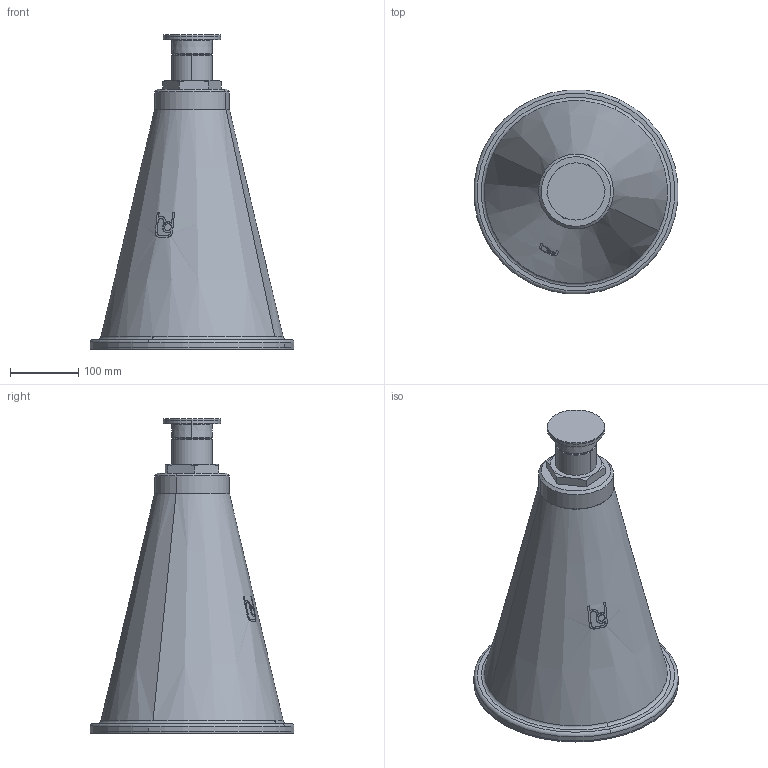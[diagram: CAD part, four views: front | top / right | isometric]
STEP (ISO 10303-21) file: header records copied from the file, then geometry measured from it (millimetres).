
FILE_DESCRIPTION(('STEP AP214'),'1');
FILE_NAME('RSRFB-09-V1.stp','2018-06-26T13:28:27',(' '),(' '),'Spatial InterOp 3D',' ',' ');
FILE_SCHEMA(('automotive_design'));
Length unit declared in the file: millimetre
Products named in the file (6): 1; 2; 3; 4; 5; 6
Bounding box: 298.95 x 298.95 x 460.82 mm (x, y, z)
Volume: 12230298.5 mm3; surface area: 568580.5 mm2
Topology: 6 solids, 7 shells, 112 faces, 262 edges, 168 vertices
Faces by surface type: plane 42, cylinder 37, cone 25, torus 8
Entity records: 4606 total; most frequent: CARTESIAN_POINT 995, DIRECTION 569, ORIENTED_EDGE 524, EDGE_CURVE 262, AXIS2_PLACEMENT_3D 230, VERTEX_POINT 168, EDGE_LOOP 120, STYLED_ITEM 118
